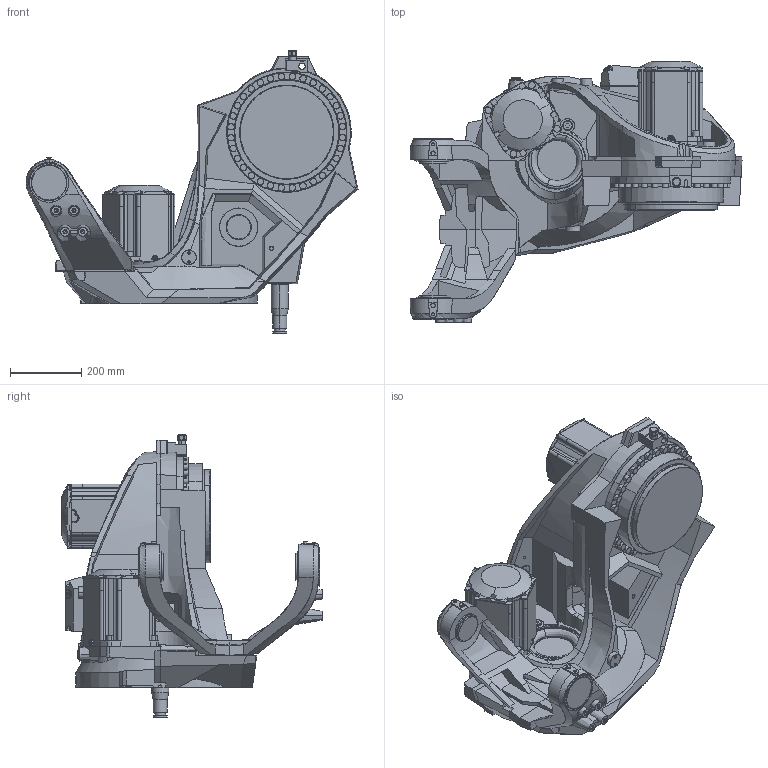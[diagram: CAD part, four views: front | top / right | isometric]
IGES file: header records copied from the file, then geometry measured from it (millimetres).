
Start section: SolidWorks IGES file using analytic representation for surfaces
Global section: file name: C:\Data\SAP_DOC\LW\IRB 6720\IRB6720-MH3_160kg-320_OC_01_SW_J\IRB6720-MH3_160kg-320_OC_01_IGES_J\IRB6720-MH3_160kg-320_OC_00_LINK01_CAD.igs; native system: SolidWorks 2024; preprocessor: SolidWorks 2024; author: SEJOVAS3; date: 260610.134114; units: millimetre
Bounding box: 933.59 x 733.5 x 795.5 mm (x, y, z)
Surface area: 2736175.4 mm2 (no closed solid volume)
Topology: 0 solids, 0 shells, 1913 faces, 28474 edges, 28452 vertices
Faces by surface type: bspline 1135, revolution 778
